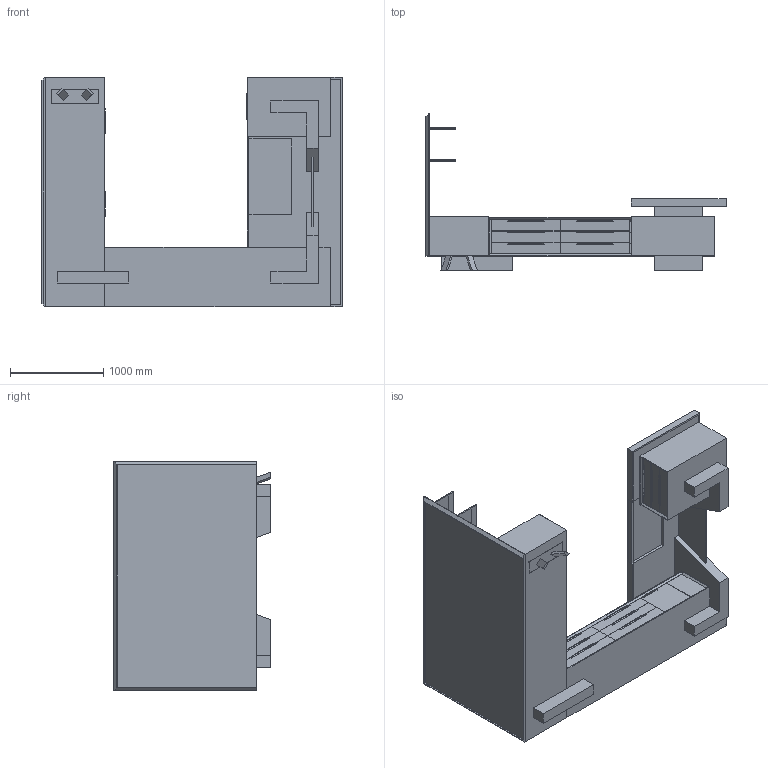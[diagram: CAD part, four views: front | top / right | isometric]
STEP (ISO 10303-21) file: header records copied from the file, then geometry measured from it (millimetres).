
FILE_DESCRIPTION(/* description */ ('','CAx-IF Rec.Pracs.---Representation and Presentation of Product Manufacturing Information (PMI)---4.0---2014-10-13'),/* implementation_level */ '2;1');
FILE_NAME(/* name */ 'DATUM^PO4.stp',/* time_stamp */ '2024-12-05T18:37:04-05:00',/* author */ ('mbowman'),/* organization */ (''),/* preprocessor_version */ 'ST-DEVELOPER v19.2',/* originating_system */ 'Autodesk Inventor 2023',/* authorisation */ '');
FILE_SCHEMA (('PROCESS_PLANNING_SCHEMA','AP242_MANAGED_MODEL_BASED_3D_ENGINEERING_MIM_LF { 1 0 10303 442 3 1 4 }','AP242_MANAGED_MODEL_BASED_3D_ENGINEERING_MIM_LF { 1 0 10303 442 1 1 4 }'));
Length unit declared in the file: inch
Products named in the file (24): DATUM^OFFICE 4_U-SHAPE-FULL ASSEMBLY; DATUM^OFFICE 4_SIDE CREDENZA-SOLID ASSEMBLY; DATUM^OFFICE 4_SIDE CREDENZA-PARTS SOLID; 2024_04_02_19_08_24_0856; 2024_04_02_19_08_24_0950; 2024_04_02_19_08_24_0934; DATUM^OFFICE 4_BACK CREDENZA-SOLID ASSEMBLY; DATUM^OFFICE 4_BACK CREDENZA-PARTS SOLID; DATUM^OFFICE 4_BACK CREDENZA-LEG ASSEMBLY; DATUM^OFFICE 4_BACK CREDENZA-METAL LEG; DATUM^OFFICE 4_BACK CREDENZA-METAL LEG TOP PLATE; DATUM^OFFICE 4_WALL HUNG-PARTS SOLID; DATUM^OFFICE 4_CREDENZA-BOTTOM RISER; DATUM^OFFICE 4_DESK-SOLID ASSEMBLY; DATUM^OFFICE 4_DESK-WORKSURFACE; DATUM^OFFICE 4_DESK-LEFT BASE; DATUM^OFFICE 4_DESK-RIGHT BASE; DATUM^OFFICE 4_DESK-PEDESTAL; DATUM^OFFICE 4_DESK-PEDESTAL_1; 2024_04_02_19_06_09_0566; 2024_04_02_19_06_09_0661; 2024_04_02_19_06_09_0645; DATUM^OFFICE 4_DESK-ACRYLIC; DATUM^OFFICES_CENTER DRAWER-32in DRAWER FRT
Assembly tree (34 placements, depth 5):
  DATUM^OFFICE 4_U-SHAPE-FULL ASSEMBLY
    DATUM^OFFICE 4_SIDE CREDENZA-SOLID ASSEMBLY
      DATUM^OFFICE 4_SIDE CREDENZA-PARTS SOLID
      2024_04_02_19_06_09_0566  x6
        2024_04_02_19_06_09_0661
        2024_04_02_19_06_09_0645
      2024_04_02_19_08_24_0856
        2024_04_02_19_08_24_0950
        2024_04_02_19_08_24_0934
    DATUM^OFFICE 4_BACK CREDENZA-SOLID ASSEMBLY
      DATUM^OFFICE 4_BACK CREDENZA-PARTS SOLID
      DATUM^OFFICE 4_BACK CREDENZA-LEG ASSEMBLY
        DATUM^OFFICE 4_BACK CREDENZA-METAL LEG  x2
        DATUM^OFFICE 4_BACK CREDENZA-METAL LEG TOP PLATE
      2024_04_02_19_06_09_0566  x2
        2024_04_02_19_06_09_0661
        2024_04_02_19_06_09_0645
    DATUM^OFFICE 4_WALL HUNG-PARTS SOLID
    DATUM^OFFICE 4_CREDENZA-BOTTOM RISER
    DATUM^OFFICE 4_DESK-SOLID ASSEMBLY
      DATUM^OFFICE 4_DESK-WORKSURFACE
      DATUM^OFFICE 4_DESK-LEFT BASE
      DATUM^OFFICE 4_DESK-RIGHT BASE
      DATUM^OFFICE 4_DESK-PEDESTAL
        2024_04_02_19_06_09_0566  x3
          2024_04_02_19_06_09_0661
          2024_04_02_19_06_09_0645
        DATUM^OFFICE 4_DESK-PEDESTAL_1
      DATUM^OFFICE 4_DESK-ACRYLIC
      DATUM^OFFICES_CENTER DRAWER-32in DRAWER FRT
Bounding box: 3213.1 x 1676.4 x 2457.45 mm (x, y, z)
Volume: 653799612.5 mm3; surface area: 55789066.7 mm2
Topology: 78 solids, 78 shells, 3366 faces, 6960 edges, 3848 vertices
Faces by surface type: cone 2640, plane 666, cylinder 60
Full cylindrical faces by diameter (mm): 0 x12, 3.5 x48
Entity records: 26990 total; most frequent: CARTESIAN_POINT 5073, DIRECTION 4366, ORIENTED_EDGE 3660, EDGE_CURVE 1830, AXIS2_PLACEMENT_3D 1498, LINE 1370, VECTOR 1370, VERTEX_POINT 1090
